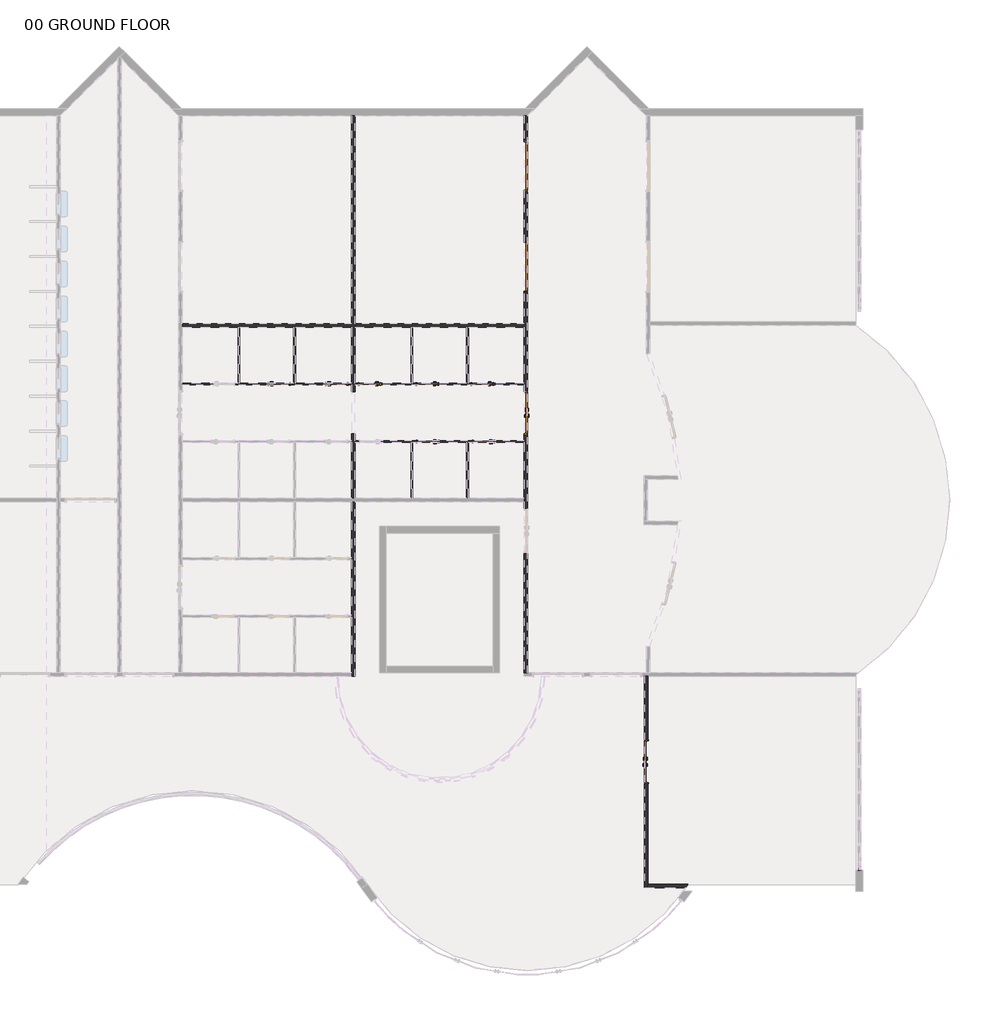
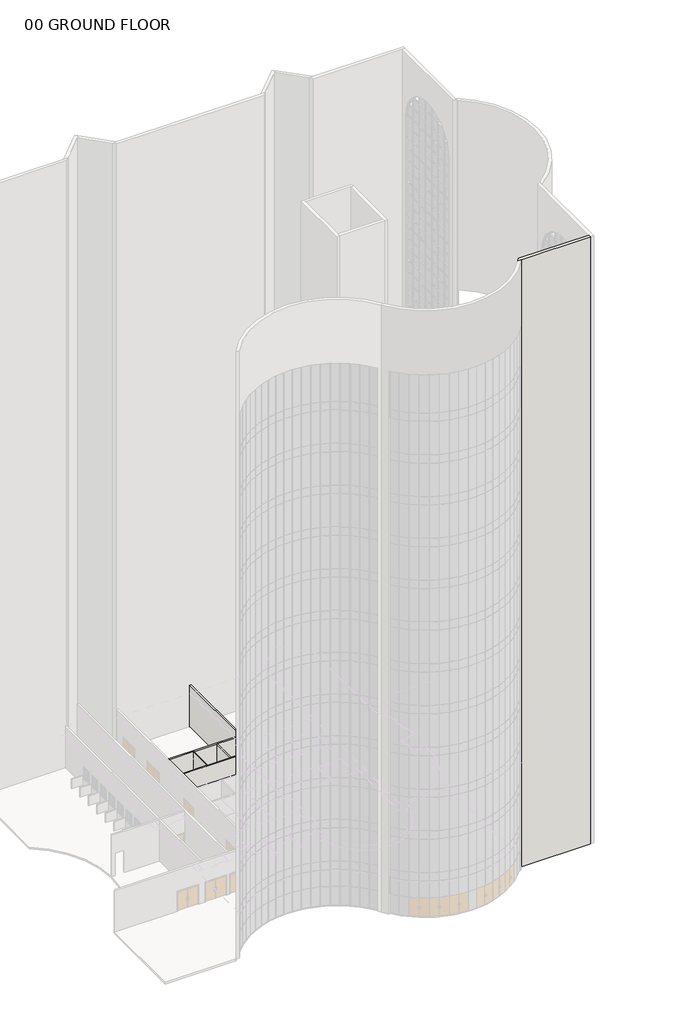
# One storey, part 14 of 33: 51 members, 15 walls, 11 doors, 1 plate.
"""IFC4 building model written with IfcOpenShell, lengths in millimetres."""

from ifc_helpers import new_model, si_unit, point, frame, frame_2d, origin, origin_with_axes, place, context, project, spatial, polyline, circle_curve, trimmed, segment, composite_curve, outline, extrude, faceted_brep, transform, mapped, element, save
from ifc_brep_helpers import plane_surface, revolved_surface, advanced_brep
from components import door_2f250f70, door_df8e76c5, door_0b13e4d9, door_979b1b8c, door_f8b587be, member_c8ecf2e3, member_fd4924df, member_73c23c35, member_75074519, system_panel_glazed_5adabceb

model = new_model("IFC4")

# Units and contexts
model_context = context("Model", 3, world=origin())
ifc_project = project(units=[si_unit("LENGTHUNIT", "METRE", prefix="MILLI")], contexts=[model_context])

# Site, building, storey
site = spatial("IfcSite", under=ifc_project)
building = spatial("IfcBuilding", under=site)
storey = spatial("IfcBuildingStorey", under=building, Name="00 GROUND FLOOR", Elevation=0.0)

# Doors
placement = place(None, origin())
door_shape = door_2f250f70(model_context)
element("IfcDoor", 1, ObjectType="Door-Passage-Double-Flush : 72\" x 82\"", at=placement, inside=storey, context=model_context, shape_type="MappedRepresentation", body=[
    mapped(door_shape, transform((34887.5089577, 5494.3375, 0.0), x_axis=(0.0, 1.0, 0.0), y_axis=(-1.0, 0.0, 0.0), z_axis=(0.0, 0.0, 1.0))),
])
door_2_shape = door_df8e76c5(model_context)
element("IfcDoor", 2, ObjectType="Door-Passage-Double-Flush : 72\" x 82\"", at=placement, inside=storey, context=model_context, shape_type="MappedRepresentation", body=[
    mapped(door_2_shape, transform((29628.0650257, 20729.575, 0.0), x_axis=(0.0, 1.0, 0.0), y_axis=(-1.0, 0.0, 0.0), z_axis=(0.0, 0.0, 1.0))),
])
door_3_shape = door_0b13e4d9(model_context)
element("IfcDoor", 3, ObjectType="Door-Passage-Double-Flush-Dbl_Acting : 84\" x 84\"", at=placement, inside=storey, context=model_context, shape_type="MappedRepresentation", body=[
    mapped(door_3_shape, transform((29628.0650257, 31499.175, 0.0), x_axis=(0.0, 1.0, 0.0), y_axis=(-1.0, 0.0, 0.0), z_axis=(0.0, 0.0, 1.0))),
])
element("IfcDoor", 4, ObjectType="Door-Passage-Double-Flush-Dbl_Acting : 84\" x 84\"", at=placement, inside=storey, context=model_context, shape_type="MappedRepresentation", body=[
    mapped(door_3_shape, transform((29628.0650257, 27101.8, 0.0), x_axis=(0.0, 1.0, 0.0), y_axis=(-1.0, 0.0, 0.0), z_axis=(0.0, 0.0, 1.0))),
])
door_4_shape = door_979b1b8c(model_context)
element("IfcDoor", 5, ObjectType="Door-Passage-Single-Flush : 36\" x 96\"", at=placement, inside=storey, context=model_context, shape_type="MappedRepresentation", body=[
    mapped(door_4_shape, transform((18855.2900257, 21977.35, 0.0), x_axis=(1.0, 0.0, 0.0), y_axis=(0.0, 1.0, 0.0), z_axis=(0.0, 0.0, 1.0))),
])
element("IfcDoor", 6, ObjectType="Door-Passage-Single-Flush : 36\" x 96\"", at=placement, inside=storey, context=model_context, shape_type="MappedRepresentation", body=[
    mapped(door_4_shape, transform((21373.0650257, 21977.35, 0.0), x_axis=(1.0, 0.0, 0.0), y_axis=(0.0, 1.0, 0.0), z_axis=(0.0, 0.0, 1.0))),
])
element("IfcDoor", 7, ObjectType="Door-Passage-Single-Flush : 36\" x 96\"", at=placement, inside=storey, context=model_context, shape_type="MappedRepresentation", body=[
    mapped(door_4_shape, transform((27778.6275257, 19481.8, 0.0), x_axis=(-1.0, 0.0, 0.0), y_axis=(0.0, -1.0, 0.0), z_axis=(0.0, 0.0, 1.0))),
])
element("IfcDoor", 8, ObjectType="Door-Passage-Single-Flush : 36\" x 96\"", at=placement, inside=storey, context=model_context, shape_type="MappedRepresentation", body=[
    mapped(door_4_shape, transform((25348.1650257, 19481.8, 0.0), x_axis=(-1.0, 0.0, 0.0), y_axis=(0.0, -1.0, 0.0), z_axis=(0.0, 0.0, 1.0))),
])
door_5_shape = door_f8b587be(model_context)
element("IfcDoor", 9, ObjectType="Door-Passage-Single-Flush : 36\" x 96\"", at=placement, inside=storey, context=model_context, shape_type="MappedRepresentation", body=[
    mapped(door_5_shape, transform((27727.8275257, 21977.35, 0.0), x_axis=(-1.0, 0.0, 0.0), y_axis=(0.0, -1.0, 0.0), z_axis=(0.0, 0.0, 1.0))),
])
element("IfcDoor", 10, ObjectType="Door-Passage-Single-Flush : 36\" x 96\"", at=placement, inside=storey, context=model_context, shape_type="MappedRepresentation", body=[
    mapped(door_5_shape, transform((25329.1150257, 21977.35, 0.0), x_axis=(-1.0, 0.0, 0.0), y_axis=(0.0, -1.0, 0.0), z_axis=(0.0, 0.0, 1.0))),
])
element("IfcDoor", 11, ObjectType="Door-Passage-Single-Flush : 36\" x 96\"", at=placement, inside=storey, context=model_context, shape_type="MappedRepresentation", body=[
    mapped(door_5_shape, transform((22811.3400257, 21977.35, 0.0), x_axis=(-1.0, 0.0, 0.0), y_axis=(0.0, -1.0, 0.0), z_axis=(0.0, 0.0, 1.0))),
])

# Members
member_shape = member_c8ecf2e3(model_context)
element("IfcMember", 12, ObjectType="Rectangular Mullion : 2.5\" x 5\" rectangular", at=placement, inside=storey, context=model_context, shape_type="MappedRepresentation", body=[
    mapped(member_shape, transform((44184.4050515, 828.675, 0.0), x_axis=(0.0, 0.0, -1.0), y_axis=(1.0, 0.0, 0.0), z_axis=(0.0, -1.0, 0.0))),
])
member_2_shape = member_fd4924df(model_context)
element("IfcMember", 13, ObjectType="Rectangular Mullion : 2.5\" x 5\" rectangular", at=placement, inside=storey, context=model_context, shape_type="MappedRepresentation", body=[
    mapped(member_2_shape, transform((44184.4050515, 776.9154703, 59740.8), x_axis=(0.0, -0.997037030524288, 0.076923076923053), y_axis=(1.0, 0.0, 0.0), z_axis=(0.0, 0.076923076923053, 0.997037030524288))),
])
member_3_shape = member_73c23c35(model_context)
element("IfcMember", 14, ObjectType="Rectangular Mullion : 2.5\" x 5\" rectangular", at=placement, inside=storey, context=model_context, shape_type="MappedRepresentation", body=[
    mapped(member_3_shape, transform((44184.4050515, 765.175, 59436.0), x_axis=(0.0, -1.0, 0.0), y_axis=(1.0, 0.0, 0.0), z_axis=(0.0, 0.0, 1.0))),
])
member_4_shape = member_75074519(model_context)
element("IfcMember", 15, ObjectType="Rectangular Mullion : 2.5\" x 5\" rectangular", at=placement, inside=storey, context=model_context, shape_type="MappedRepresentation", body=[
    mapped(member_4_shape, transform((44184.4050515, 765.175, 1219.2), x_axis=(0.0, -1.0, 0.0), y_axis=(1.0, 0.0, 0.0), z_axis=(0.0, 0.0, 1.0))),
])
element("IfcMember", 16, ObjectType="Rectangular Mullion : 2.5\" x 5\" rectangular", at=placement, inside=storey, context=model_context, shape_type="MappedRepresentation", body=[
    mapped(member_4_shape, transform((44184.4050515, 765.175, 2438.4), x_axis=(0.0, -1.0, 0.0), y_axis=(1.0, 0.0, 0.0), z_axis=(0.0, 0.0, 1.0))),
])
element("IfcMember", 17, ObjectType="Rectangular Mullion : 2.5\" x 5\" rectangular", at=placement, inside=storey, context=model_context, shape_type="MappedRepresentation", body=[
    mapped(member_4_shape, transform((44184.4050515, 765.175, 3657.6), x_axis=(0.0, -1.0, 0.0), y_axis=(1.0, 0.0, 0.0), z_axis=(0.0, 0.0, 1.0))),
])
element("IfcMember", 18, ObjectType="Rectangular Mullion : 2.5\" x 5\" rectangular", at=placement, inside=storey, context=model_context, shape_type="MappedRepresentation", body=[
    mapped(member_4_shape, transform((44184.4050515, 765.175, 4876.8), x_axis=(0.0, -1.0, 0.0), y_axis=(1.0, 0.0, 0.0), z_axis=(0.0, 0.0, 1.0))),
])
element("IfcMember", 19, ObjectType="Rectangular Mullion : 2.5\" x 5\" rectangular", at=placement, inside=storey, context=model_context, shape_type="MappedRepresentation", body=[
    mapped(member_4_shape, transform((44184.4050515, 765.175, 6096.0), x_axis=(0.0, -1.0, 0.0), y_axis=(1.0, 0.0, 0.0), z_axis=(0.0, 0.0, 1.0))),
])
element("IfcMember", 20, ObjectType="Rectangular Mullion : 2.5\" x 5\" rectangular", at=placement, inside=storey, context=model_context, shape_type="MappedRepresentation", body=[
    mapped(member_4_shape, transform((44184.4050515, 765.175, 7315.2), x_axis=(0.0, -1.0, 0.0), y_axis=(1.0, 0.0, 0.0), z_axis=(0.0, 0.0, 1.0))),
])
element("IfcMember", 21, ObjectType="Rectangular Mullion : 2.5\" x 5\" rectangular", at=placement, inside=storey, context=model_context, shape_type="MappedRepresentation", body=[
    mapped(member_4_shape, transform((44184.4050515, 765.175, 8534.4), x_axis=(0.0, -1.0, 0.0), y_axis=(1.0, 0.0, 0.0), z_axis=(0.0, 0.0, 1.0))),
])
element("IfcMember", 22, ObjectType="Rectangular Mullion : 2.5\" x 5\" rectangular", at=placement, inside=storey, context=model_context, shape_type="MappedRepresentation", body=[
    mapped(member_4_shape, transform((44184.4050515, 765.175, 9753.6), x_axis=(0.0, -1.0, 0.0), y_axis=(1.0, 0.0, 0.0), z_axis=(0.0, 0.0, 1.0))),
])
element("IfcMember", 23, ObjectType="Rectangular Mullion : 2.5\" x 5\" rectangular", at=placement, inside=storey, context=model_context, shape_type="MappedRepresentation", body=[
    mapped(member_4_shape, transform((44184.4050515, 765.175, 10972.8), x_axis=(0.0, -1.0, 0.0), y_axis=(1.0, 0.0, 0.0), z_axis=(0.0, 0.0, 1.0))),
])
element("IfcMember", 24, ObjectType="Rectangular Mullion : 2.5\" x 5\" rectangular", at=placement, inside=storey, context=model_context, shape_type="MappedRepresentation", body=[
    mapped(member_4_shape, transform((44184.4050515, 765.175, 12192.0), x_axis=(0.0, -1.0, 0.0), y_axis=(1.0, 0.0, 0.0), z_axis=(0.0, 0.0, 1.0))),
])
element("IfcMember", 25, ObjectType="Rectangular Mullion : 2.5\" x 5\" rectangular", at=placement, inside=storey, context=model_context, shape_type="MappedRepresentation", body=[
    mapped(member_4_shape, transform((44184.4050515, 765.175, 13411.2), x_axis=(0.0, -1.0, 0.0), y_axis=(1.0, 0.0, 0.0), z_axis=(0.0, 0.0, 1.0))),
])
element("IfcMember", 26, ObjectType="Rectangular Mullion : 2.5\" x 5\" rectangular", at=placement, inside=storey, context=model_context, shape_type="MappedRepresentation", body=[
    mapped(member_4_shape, transform((44184.4050515, 765.175, 14630.4), x_axis=(0.0, -1.0, 0.0), y_axis=(1.0, 0.0, 0.0), z_axis=(0.0, 0.0, 1.0))),
])
element("IfcMember", 27, ObjectType="Rectangular Mullion : 2.5\" x 5\" rectangular", at=placement, inside=storey, context=model_context, shape_type="MappedRepresentation", body=[
    mapped(member_4_shape, transform((44184.4050515, 765.175, 15849.6), x_axis=(0.0, -1.0, 0.0), y_axis=(1.0, 0.0, 0.0), z_axis=(0.0, 0.0, 1.0))),
])
element("IfcMember", 28, ObjectType="Rectangular Mullion : 2.5\" x 5\" rectangular", at=placement, inside=storey, context=model_context, shape_type="MappedRepresentation", body=[
    mapped(member_4_shape, transform((44184.4050515, 765.175, 17068.8), x_axis=(0.0, -1.0, 0.0), y_axis=(1.0, 0.0, 0.0), z_axis=(0.0, 0.0, 1.0))),
])
element("IfcMember", 29, ObjectType="Rectangular Mullion : 2.5\" x 5\" rectangular", at=placement, inside=storey, context=model_context, shape_type="MappedRepresentation", body=[
    mapped(member_4_shape, transform((44184.4050515, 765.175, 18288.0), x_axis=(0.0, -1.0, 0.0), y_axis=(1.0, 0.0, 0.0), z_axis=(0.0, 0.0, 1.0))),
])
element("IfcMember", 30, ObjectType="Rectangular Mullion : 2.5\" x 5\" rectangular", at=placement, inside=storey, context=model_context, shape_type="MappedRepresentation", body=[
    mapped(member_4_shape, transform((44184.4050515, 765.175, 19507.2), x_axis=(0.0, -1.0, 0.0), y_axis=(1.0, 0.0, 0.0), z_axis=(0.0, 0.0, 1.0))),
])
element("IfcMember", 31, ObjectType="Rectangular Mullion : 2.5\" x 5\" rectangular", at=placement, inside=storey, context=model_context, shape_type="MappedRepresentation", body=[
    mapped(member_4_shape, transform((44184.4050515, 765.175, 20726.4), x_axis=(0.0, -1.0, 0.0), y_axis=(1.0, 0.0, 0.0), z_axis=(0.0, 0.0, 1.0))),
])
element("IfcMember", 32, ObjectType="Rectangular Mullion : 2.5\" x 5\" rectangular", at=placement, inside=storey, context=model_context, shape_type="MappedRepresentation", body=[
    mapped(member_4_shape, transform((44184.4050515, 765.175, 21945.6), x_axis=(0.0, -1.0, 0.0), y_axis=(1.0, 0.0, 0.0), z_axis=(0.0, 0.0, 1.0))),
])
element("IfcMember", 33, ObjectType="Rectangular Mullion : 2.5\" x 5\" rectangular", at=placement, inside=storey, context=model_context, shape_type="MappedRepresentation", body=[
    mapped(member_4_shape, transform((44184.4050515, 765.175, 23164.8), x_axis=(0.0, -1.0, 0.0), y_axis=(1.0, 0.0, 0.0), z_axis=(0.0, 0.0, 1.0))),
])
element("IfcMember", 34, ObjectType="Rectangular Mullion : 2.5\" x 5\" rectangular", at=placement, inside=storey, context=model_context, shape_type="MappedRepresentation", body=[
    mapped(member_4_shape, transform((44184.4050515, 765.175, 24384.0), x_axis=(0.0, -1.0, 0.0), y_axis=(1.0, 0.0, 0.0), z_axis=(0.0, 0.0, 1.0))),
])
element("IfcMember", 35, ObjectType="Rectangular Mullion : 2.5\" x 5\" rectangular", at=placement, inside=storey, context=model_context, shape_type="MappedRepresentation", body=[
    mapped(member_4_shape, transform((44184.4050515, 765.175, 25603.2), x_axis=(0.0, -1.0, 0.0), y_axis=(1.0, 0.0, 0.0), z_axis=(0.0, 0.0, 1.0))),
])
element("IfcMember", 36, ObjectType="Rectangular Mullion : 2.5\" x 5\" rectangular", at=placement, inside=storey, context=model_context, shape_type="MappedRepresentation", body=[
    mapped(member_4_shape, transform((44184.4050515, 765.175, 26822.4), x_axis=(0.0, -1.0, 0.0), y_axis=(1.0, 0.0, 0.0), z_axis=(0.0, 0.0, 1.0))),
])
element("IfcMember", 37, ObjectType="Rectangular Mullion : 2.5\" x 5\" rectangular", at=placement, inside=storey, context=model_context, shape_type="MappedRepresentation", body=[
    mapped(member_4_shape, transform((44184.4050515, 765.175, 28041.6), x_axis=(0.0, -1.0, 0.0), y_axis=(1.0, 0.0, 0.0), z_axis=(0.0, 0.0, 1.0))),
])
element("IfcMember", 38, ObjectType="Rectangular Mullion : 2.5\" x 5\" rectangular", at=placement, inside=storey, context=model_context, shape_type="MappedRepresentation", body=[
    mapped(member_4_shape, transform((44184.4050515, 765.175, 29260.8), x_axis=(0.0, -1.0, 0.0), y_axis=(1.0, 0.0, 0.0), z_axis=(0.0, 0.0, 1.0))),
])
element("IfcMember", 39, ObjectType="Rectangular Mullion : 2.5\" x 5\" rectangular", at=placement, inside=storey, context=model_context, shape_type="MappedRepresentation", body=[
    mapped(member_4_shape, transform((44184.4050515, 765.175, 30480.0), x_axis=(0.0, -1.0, 0.0), y_axis=(1.0, 0.0, 0.0), z_axis=(0.0, 0.0, 1.0))),
])
element("IfcMember", 40, ObjectType="Rectangular Mullion : 2.5\" x 5\" rectangular", at=placement, inside=storey, context=model_context, shape_type="MappedRepresentation", body=[
    mapped(member_4_shape, transform((44184.4050515, 765.175, 31699.2), x_axis=(0.0, -1.0, 0.0), y_axis=(1.0, 0.0, 0.0), z_axis=(0.0, 0.0, 1.0))),
])
element("IfcMember", 41, ObjectType="Rectangular Mullion : 2.5\" x 5\" rectangular", at=placement, inside=storey, context=model_context, shape_type="MappedRepresentation", body=[
    mapped(member_4_shape, transform((44184.4050515, 765.175, 32918.4), x_axis=(0.0, -1.0, 0.0), y_axis=(1.0, 0.0, 0.0), z_axis=(0.0, 0.0, 1.0))),
])
element("IfcMember", 42, ObjectType="Rectangular Mullion : 2.5\" x 5\" rectangular", at=placement, inside=storey, context=model_context, shape_type="MappedRepresentation", body=[
    mapped(member_4_shape, transform((44184.4050515, 765.175, 34137.6), x_axis=(0.0, -1.0, 0.0), y_axis=(1.0, 0.0, 0.0), z_axis=(0.0, 0.0, 1.0))),
])
element("IfcMember", 43, ObjectType="Rectangular Mullion : 2.5\" x 5\" rectangular", at=placement, inside=storey, context=model_context, shape_type="MappedRepresentation", body=[
    mapped(member_4_shape, transform((44184.4050515, 765.175, 35356.8), x_axis=(0.0, -1.0, 0.0), y_axis=(1.0, 0.0, 0.0), z_axis=(0.0, 0.0, 1.0))),
])
element("IfcMember", 44, ObjectType="Rectangular Mullion : 2.5\" x 5\" rectangular", at=placement, inside=storey, context=model_context, shape_type="MappedRepresentation", body=[
    mapped(member_4_shape, transform((44184.4050515, 765.175, 36576.0), x_axis=(0.0, -1.0, 0.0), y_axis=(1.0, 0.0, 0.0), z_axis=(0.0, 0.0, 1.0))),
])
element("IfcMember", 45, ObjectType="Rectangular Mullion : 2.5\" x 5\" rectangular", at=placement, inside=storey, context=model_context, shape_type="MappedRepresentation", body=[
    mapped(member_4_shape, transform((44184.4050515, 765.175, 37795.2), x_axis=(0.0, -1.0, 0.0), y_axis=(1.0, 0.0, 0.0), z_axis=(0.0, 0.0, 1.0))),
])
element("IfcMember", 46, ObjectType="Rectangular Mullion : 2.5\" x 5\" rectangular", at=placement, inside=storey, context=model_context, shape_type="MappedRepresentation", body=[
    mapped(member_4_shape, transform((44184.4050515, 765.175, 39014.4), x_axis=(0.0, -1.0, 0.0), y_axis=(1.0, 0.0, 0.0), z_axis=(0.0, 0.0, 1.0))),
])
element("IfcMember", 47, ObjectType="Rectangular Mullion : 2.5\" x 5\" rectangular", at=placement, inside=storey, context=model_context, shape_type="MappedRepresentation", body=[
    mapped(member_4_shape, transform((44184.4050515, 765.175, 40233.6), x_axis=(0.0, -1.0, 0.0), y_axis=(1.0, 0.0, 0.0), z_axis=(0.0, 0.0, 1.0))),
])
element("IfcMember", 48, ObjectType="Rectangular Mullion : 2.5\" x 5\" rectangular", at=placement, inside=storey, context=model_context, shape_type="MappedRepresentation", body=[
    mapped(member_4_shape, transform((44184.4050515, 765.175, 41452.8), x_axis=(0.0, -1.0, 0.0), y_axis=(1.0, 0.0, 0.0), z_axis=(0.0, 0.0, 1.0))),
])
element("IfcMember", 49, ObjectType="Rectangular Mullion : 2.5\" x 5\" rectangular", at=placement, inside=storey, context=model_context, shape_type="MappedRepresentation", body=[
    mapped(member_4_shape, transform((44184.4050515, 765.175, 42672.0), x_axis=(0.0, -1.0, 0.0), y_axis=(1.0, 0.0, 0.0), z_axis=(0.0, 0.0, 1.0))),
])
element("IfcMember", 50, ObjectType="Rectangular Mullion : 2.5\" x 5\" rectangular", at=placement, inside=storey, context=model_context, shape_type="MappedRepresentation", body=[
    mapped(member_4_shape, transform((44184.4050515, 765.175, 43891.2), x_axis=(0.0, -1.0, 0.0), y_axis=(1.0, 0.0, 0.0), z_axis=(0.0, 0.0, 1.0))),
])
element("IfcMember", 51, ObjectType="Rectangular Mullion : 2.5\" x 5\" rectangular", at=placement, inside=storey, context=model_context, shape_type="MappedRepresentation", body=[
    mapped(member_4_shape, transform((44184.4050515, 765.175, 45110.4), x_axis=(0.0, -1.0, 0.0), y_axis=(1.0, 0.0, 0.0), z_axis=(0.0, 0.0, 1.0))),
])
element("IfcMember", 52, ObjectType="Rectangular Mullion : 2.5\" x 5\" rectangular", at=placement, inside=storey, context=model_context, shape_type="MappedRepresentation", body=[
    mapped(member_4_shape, transform((44184.4050515, 765.175, 46329.6), x_axis=(0.0, -1.0, 0.0), y_axis=(1.0, 0.0, 0.0), z_axis=(0.0, 0.0, 1.0))),
])
element("IfcMember", 53, ObjectType="Rectangular Mullion : 2.5\" x 5\" rectangular", at=placement, inside=storey, context=model_context, shape_type="MappedRepresentation", body=[
    mapped(member_4_shape, transform((44184.4050515, 765.175, 47548.8), x_axis=(0.0, -1.0, 0.0), y_axis=(1.0, 0.0, 0.0), z_axis=(0.0, 0.0, 1.0))),
])
element("IfcMember", 54, ObjectType="Rectangular Mullion : 2.5\" x 5\" rectangular", at=placement, inside=storey, context=model_context, shape_type="MappedRepresentation", body=[
    mapped(member_4_shape, transform((44184.4050515, 765.175, 48768.0), x_axis=(0.0, -1.0, 0.0), y_axis=(1.0, 0.0, 0.0), z_axis=(0.0, 0.0, 1.0))),
])
element("IfcMember", 55, ObjectType="Rectangular Mullion : 2.5\" x 5\" rectangular", at=placement, inside=storey, context=model_context, shape_type="MappedRepresentation", body=[
    mapped(member_4_shape, transform((44184.4050515, 765.175, 49987.2), x_axis=(0.0, -1.0, 0.0), y_axis=(1.0, 0.0, 0.0), z_axis=(0.0, 0.0, 1.0))),
])
element("IfcMember", 56, ObjectType="Rectangular Mullion : 2.5\" x 5\" rectangular", at=placement, inside=storey, context=model_context, shape_type="MappedRepresentation", body=[
    mapped(member_4_shape, transform((44184.4050515, 765.175, 51206.4), x_axis=(0.0, -1.0, 0.0), y_axis=(1.0, 0.0, 0.0), z_axis=(0.0, 0.0, 1.0))),
])
element("IfcMember", 57, ObjectType="Rectangular Mullion : 2.5\" x 5\" rectangular", at=placement, inside=storey, context=model_context, shape_type="MappedRepresentation", body=[
    mapped(member_4_shape, transform((44184.4050515, 765.175, 52425.6), x_axis=(0.0, -1.0, 0.0), y_axis=(1.0, 0.0, 0.0), z_axis=(0.0, 0.0, 1.0))),
])
element("IfcMember", 58, ObjectType="Rectangular Mullion : 2.5\" x 5\" rectangular", at=placement, inside=storey, context=model_context, shape_type="MappedRepresentation", body=[
    mapped(member_4_shape, transform((44184.4050515, 765.175, 53644.8), x_axis=(0.0, -1.0, 0.0), y_axis=(1.0, 0.0, 0.0), z_axis=(0.0, 0.0, 1.0))),
])
element("IfcMember", 59, ObjectType="Rectangular Mullion : 2.5\" x 5\" rectangular", at=placement, inside=storey, context=model_context, shape_type="MappedRepresentation", body=[
    mapped(member_4_shape, transform((44184.4050515, 765.175, 54864.0), x_axis=(0.0, -1.0, 0.0), y_axis=(1.0, 0.0, 0.0), z_axis=(0.0, 0.0, 1.0))),
])
element("IfcMember", 60, ObjectType="Rectangular Mullion : 2.5\" x 5\" rectangular", at=placement, inside=storey, context=model_context, shape_type="MappedRepresentation", body=[
    mapped(member_4_shape, transform((44184.4050515, 765.175, 56083.2), x_axis=(0.0, -1.0, 0.0), y_axis=(1.0, 0.0, 0.0), z_axis=(0.0, 0.0, 1.0))),
])
element("IfcMember", 61, ObjectType="Rectangular Mullion : 2.5\" x 5\" rectangular", at=placement, inside=storey, context=model_context, shape_type="MappedRepresentation", body=[
    mapped(member_4_shape, transform((44184.4050515, 765.175, 57302.4), x_axis=(0.0, -1.0, 0.0), y_axis=(1.0, 0.0, 0.0), z_axis=(0.0, 0.0, 1.0))),
])
element("IfcMember", 62, ObjectType="Rectangular Mullion : 2.5\" x 5\" rectangular", at=placement, inside=storey, context=model_context, shape_type="MappedRepresentation", body=[
    mapped(member_4_shape, transform((44184.4050515, 765.175, 58521.6), x_axis=(0.0, -1.0, 0.0), y_axis=(1.0, 0.0, 0.0), z_axis=(0.0, 0.0, 1.0))),
])

# Plate
system_panel_glazed_shape = system_panel_glazed_5adabceb(model_context)
element("IfcPlate", 63, ObjectType="System Panel : Glazed", at=placement, inside=storey, context=model_context, shape_type="MappedRepresentation", body=[
    mapped(system_panel_glazed_shape, transform((44184.4050515, 1347.107143, 63.5), x_axis=(0.0, 1.0, 0.0), y_axis=(-1.0, 0.0, 0.0), z_axis=(0.0, 0.0, 1.0))),
])

# Walls
element("IfcWall", 64, ObjectType="Exterior - MAIN EIFS WITH LGMF", at=placement, inside=storey, context=model_context, shape_type="AdvancedBrep", body=[
    advanced_brep(
    [(44028.8300515, 155.575, 0.0), (36713.6300515, 155.575, 0.0), (36713.6300515, 155.575, 4572.0), (36713.6300515, 155.575, 9144.0), (36713.6300515, 155.575, 13716.0), (36713.6300515, 155.575, 18288.0), (36713.6300515, 155.575, 22860.0), (36713.6300515, 155.575, 27432.0), (36713.6300515, 155.575, 32004.0), (36713.6300515, 155.575, 36576.0), (36713.6300515, 155.575, 41148.0), (36713.6300515, 155.575, 45720.0), (36713.6300515, 155.575, 50292.0), (36713.6300515, 155.575, 54864.0), (36713.6300515, 155.575, 59436.0), (36713.6300515, 155.575, 64008.0), (36713.6300515, 155.575, 66446.4), (44028.8300515, 155.575, 66446.4), (44028.8300515, -155.575, 0.0), (44028.8300515, -155.575, 66446.4), (36878.6712728, -155.575, 66446.4), (36496.9703155, -155.575, 66446.4), (36496.9703155, -155.575, 0.0), (36878.6712728, -155.575, 0.0), (36607.9064974, -0.0001037, 0.0)],
    [
        (0, 1),
        (1, 2),
        (2, 3),
        (3, 4),
        (4, 5),
        (5, 6),
        (6, 7),
        (7, 8),
        (8, 9),
        (9, 10),
        (10, 11),
        (11, 12),
        (12, 13),
        (13, 14),
        (14, 15),
        (15, 16),
        (16, 17),
        (17, 0),
        (18, 19),
        (19, 20),
        (20, 21),
        (21, 22),
        (22, 23),
        (23, 18),
        (0, 18),
        (22, 24, circle_curve(frame((29712.2025257, 4799.7966199, 0.0), z_axis=(0.0, 0.0, 1.0), x_axis=(1.0, 0.0, 0.0)), 8401.7130309)),
        (24, 1, circle_curve(frame((29712.2025257, 4799.7966199, 0.0), z_axis=(0.0, 0.0, 1.0), x_axis=(1.0, 0.0, 0.0)), 8401.7130309)),
        (16, 21, circle_curve(frame((29712.2025257, 4799.7966199, 66446.4), z_axis=(0.0, 0.0, -1.0), x_axis=(1.0, 0.0, 0.0)), 8401.7130309)),
        (19, 17),
    ],
    [
        plane_surface(frame((44028.8300515, 155.575, 0.0), z_axis=(0.0, 1.0, 0.0), x_axis=(-1.0, 0.0, 0.0))),
        plane_surface(frame((44028.8300515, -155.575, 0.0), z_axis=(0.0, -1.0, 0.0), x_axis=(1.0, 0.0, 0.0))),
        plane_surface(frame((44184.4050515, 155.575, 0.0), z_axis=(0.0, 0.0, -1.0), x_axis=(0.0, -1.0, 0.0))),
        plane_surface(frame((36796.6312854, 155.575, 66446.4), z_axis=(0.0, 0.0, 1.0), x_axis=(0.0, -1.0, 0.0))),
        revolved_surface(polyline([(38113.9155566, 4799.7966199, 0.0), (38113.9155566, 4799.7966199, 66446.4)]), (29712.2025257, 4799.7966199, 0.0), (0.0, 0.0, -1.0)),
        plane_surface(frame((44028.8300515, 9299.575, 0.0), z_axis=(1.0, 0.0, 0.0), x_axis=(0.0, -1.0, 0.0))),
    ],
    [
        (0, [[1, 2, 3, 4, 5, 6, 7, 8, 9, 10, 11, 12, 13, 14, 15, 16, 17, 18]]),
        (1, [[19, 20, 21, 22, 23, 24]]),
        (2, [[-1, 25, -24, -23, 26, 27]]),
        (3, [[-17, 28, -21, -20, 29]]),
        (4, [[-27, -26, -22, -28, -16, -15, -14, -13, -12, -11, -10, -9, -8, -7, -6, -5, -4, -3, -2]]),
        (5, [[-18, -29, -19, -25]]),
    ],
),
])
element("IfcWall", 65, ObjectType="SYR_INT_ONE_HOUR", at=placement, inside=storey, context=model_context, shape_type="SweptSolid", body=[
    extrude(outline(polyline([(17066.1775257, 22023.3875), (17066.1775257, 24461.7875), (17145.5525257, 24461.7875), (17145.5525257, 22023.3875), (17066.1775257, 22023.3875)])), origin_with_axes(), (0.0, 0.0, 1.0), 4572.0),
])
element("IfcWall", 66, ObjectType="SYR_INT_ONE_HOUR", at=placement, inside=storey, context=model_context, shape_type="Brep", body=[
    faceted_brep([(14627.7775257, 22023.3875, 4572.0), (17066.1775257, 22023.3875, 4572.0), (17145.5525257, 22023.3875, 4572.0), (19496.6400257, 22023.3875, 4572.0), (19576.0150257, 22023.3875, 4572.0), (22014.4150257, 22023.3875, 4572.0), (22014.4150257, 22023.3875, 0.0), (21862.0150257, 22023.3875, 0.0), (21862.0150257, 22023.3875, 2470.15), (20884.1150257, 22023.3875, 2470.15), (20884.1150257, 22023.3875, 0.0), (19576.0150257, 22023.3875, 0.0), (19496.6400257, 22023.3875, 0.0), (19344.2400257, 22023.3875, 0.0), (19344.2400257, 22023.3875, 2470.15), (18366.3400257, 22023.3875, 2470.15), (18366.3400257, 22023.3875, 0.0), (17145.5525257, 22023.3875, 0.0), (17066.1775257, 22023.3875, 0.0), (16945.5275257, 22023.3875, 0.0), (16945.5275257, 22023.3875, 2470.15), (15967.6275257, 22023.3875, 2470.15), (15967.6275257, 22023.3875, 0.0), (14627.7775257, 22023.3875, 0.0), (22014.4150257, 21944.0125, 4572.0), (14627.7775257, 21944.0125, 4572.0), (14627.7775257, 21944.0125, 0.0), (15967.6275257, 21944.0125, 0.0), (15967.6275257, 21944.0125, 2470.15), (16945.5275257, 21944.0125, 2470.15), (16945.5275257, 21944.0125, 0.0), (18366.3400257, 21944.0125, 0.0), (18366.3400257, 21944.0125, 2470.15), (19344.2400257, 21944.0125, 2470.15), (19344.2400257, 21944.0125, 0.0), (20884.1150257, 21944.0125, 0.0), (20884.1150257, 21944.0125, 2470.15), (21862.0150257, 21944.0125, 2470.15), (21862.0150257, 21944.0125, 0.0), (22014.4150257, 21944.0125, 0.0)], [[[0, 1, 2, 3, 4, 5, 6, 7, 8, 9, 10, 11, 12, 13, 14, 15, 16, 17, 18, 19, 20, 21, 22, 23]], [[24, 25, 26, 27, 28, 29, 30, 31, 32, 33, 34, 35, 36, 37, 38, 39]], [[23, 22, 27, 26]], [[30, 19, 18, 17, 16, 31]], [[34, 13, 12, 11, 10, 35]], [[6, 39, 38, 7]], [[5, 4, 3, 2, 1, 0, 25, 24]], [[29, 20, 19, 30]], [[20, 29, 28, 21]], [[21, 28, 27, 22]], [[14, 13, 34, 33]], [[15, 14, 33, 32]], [[16, 15, 32, 31]], [[37, 8, 7, 38]], [[8, 37, 36, 9]], [[9, 36, 35, 10]], [[0, 23, 26, 25]], [[6, 5, 24, 39]]]),
])
element("IfcWall", 67, ObjectType="SYR_INT_ONE_HOUR", at=placement, inside=storey, context=model_context, shape_type="SweptSolid", body=[
    extrude(outline(polyline([(19576.0150257, 24461.7875), (19576.0150257, 22023.3875), (19496.6400257, 22023.3875), (19496.6400257, 24461.7875), (19576.0150257, 24461.7875)])), origin_with_axes(), (0.0, 0.0, 1.0), 4572.0),
])
element("IfcWall", 68, ObjectType="SYR_INT_ONE_HOUR", at=placement, inside=storey, context=model_context, shape_type="SweptSolid", body=[
    extrude(outline(polyline([(27038.8525257, 22023.3875), (27038.8525257, 24461.7875), (27118.2275257, 24461.7875), (27118.2275257, 22023.3875), (27038.8525257, 22023.3875)])), origin_with_axes(), (0.0, 0.0, 1.0), 4572.0),
])
element("IfcWall", 69, ObjectType="SYR_INT_ONE_HOUR", at=placement, inside=storey, context=model_context, shape_type="SweptSolid", body=[
    extrude(outline(polyline([(24687.7650257, 19435.7625), (24687.7650257, 16997.3625), (24608.3900257, 16997.3625), (24608.3900257, 19435.7625), (24687.7650257, 19435.7625)])), origin_with_axes(), (0.0, 0.0, 1.0), 4572.0),
])
element("IfcWall", 70, ObjectType="SYR_INT_ONE_HOUR", at=placement, inside=storey, context=model_context, shape_type="Brep", body=[
    faceted_brep([(29556.6275257, 21944.0125, 4572.0), (22169.9900257, 21944.0125, 4572.0), (22169.9900257, 21944.0125, 0.0), (22322.3900257, 21944.0125, 0.0), (22322.3900257, 21944.0125, 2470.15), (23300.2900257, 21944.0125, 2470.15), (23300.2900257, 21944.0125, 0.0), (24840.1650257, 21944.0125, 0.0), (24840.1650257, 21944.0125, 2470.15), (25818.0650257, 21944.0125, 2470.15), (25818.0650257, 21944.0125, 0.0), (27238.8775257, 21944.0125, 0.0), (27238.8775257, 21944.0125, 2470.15), (28216.7775257, 21944.0125, 2470.15), (28216.7775257, 21944.0125, 0.0), (29556.6275257, 21944.0125, 0.0), (22169.9900257, 22023.3875, 4572.0), (24608.3900257, 22023.3875, 4572.0), (24687.7650257, 22023.3875, 4572.0), (27038.8525257, 22023.3875, 4572.0), (27118.2275257, 22023.3875, 4572.0), (29556.6275257, 22023.3875, 4572.0), (29556.6275257, 22023.3875, 0.0), (28216.7775257, 22023.3875, 0.0), (28216.7775257, 22023.3875, 2470.15), (27238.8775257, 22023.3875, 2470.15), (27238.8775257, 22023.3875, 0.0), (27118.2275257, 22023.3875, 0.0), (27038.8525257, 22023.3875, 0.0), (25818.0650257, 22023.3875, 0.0), (25818.0650257, 22023.3875, 2470.15), (24840.1650257, 22023.3875, 2470.15), (24840.1650257, 22023.3875, 0.0), (24687.7650257, 22023.3875, 0.0), (24608.3900257, 22023.3875, 0.0), (23300.2900257, 22023.3875, 0.0), (23300.2900257, 22023.3875, 2470.15), (22322.3900257, 22023.3875, 2470.15), (22322.3900257, 22023.3875, 0.0), (22169.9900257, 22023.3875, 0.0)], [[[0, 1, 2, 3, 4, 5, 6, 7, 8, 9, 10, 11, 12, 13, 14, 15]], [[16, 17, 18, 19, 20, 21, 22, 23, 24, 25, 26, 27, 28, 29, 30, 31, 32, 33, 34, 35, 36, 37, 38, 39]], [[15, 14, 23, 22]], [[26, 11, 10, 29, 28, 27]], [[32, 7, 6, 35, 34, 33]], [[2, 39, 38, 3]], [[1, 0, 21, 20, 19, 18, 17, 16]], [[25, 12, 11, 26]], [[12, 25, 24, 13]], [[13, 24, 23, 14]], [[8, 7, 32, 31]], [[9, 8, 31, 30]], [[10, 9, 30, 29]], [[37, 4, 3, 38]], [[4, 37, 36, 5]], [[5, 36, 35, 6]], [[0, 15, 22, 21]], [[2, 1, 16, 39]]]),
])
element("IfcWall", 71, ObjectType="SYR_INT_ONE_HOUR", at=placement, inside=storey, context=model_context, shape_type="Brep", body=[
    faceted_brep([(29556.6275257, 19435.7625, 4572.0), (27118.2275257, 19435.7625, 4572.0), (27038.8525257, 19435.7625, 4572.0), (24687.7650257, 19435.7625, 4572.0), (24608.3900257, 19435.7625, 4572.0), (22169.9900257, 19435.7625, 4572.0), (22169.9900257, 19435.7625, 0.0), (22341.4400257, 19435.7625, 0.0), (22341.4400257, 19435.7625, 2470.15), (23319.3400257, 19435.7625, 2470.15), (23319.3400257, 19435.7625, 0.0), (24608.3900257, 19435.7625, 0.0), (24687.7650257, 19435.7625, 0.0), (24859.2150257, 19435.7625, 0.0), (24859.2150257, 19435.7625, 2470.15), (25837.1150257, 19435.7625, 2470.15), (25837.1150257, 19435.7625, 0.0), (27038.8525257, 19435.7625, 0.0), (27118.2275257, 19435.7625, 0.0), (27289.6775257, 19435.7625, 0.0), (27289.6775257, 19435.7625, 2470.15), (28267.5775257, 19435.7625, 2470.15), (28267.5775257, 19435.7625, 0.0), (29556.6275257, 19435.7625, 0.0), (22169.9900257, 19515.1375, 4572.0), (29556.6275257, 19515.1375, 4572.0), (29556.6275257, 19515.1375, 0.0), (28267.5775257, 19515.1375, 0.0), (28267.5775257, 19515.1375, 2470.15), (27289.6775257, 19515.1375, 2470.15), (27289.6775257, 19515.1375, 0.0), (25837.1150257, 19515.1375, 0.0), (25837.1150257, 19515.1375, 2470.15), (24859.2150257, 19515.1375, 2470.15), (24859.2150257, 19515.1375, 0.0), (23319.3400257, 19515.1375, 0.0), (23319.3400257, 19515.1375, 2470.15), (22341.4400257, 19515.1375, 2470.15), (22341.4400257, 19515.1375, 0.0), (22169.9900257, 19515.1375, 0.0)], [[[0, 1, 2, 3, 4, 5, 6, 7, 8, 9, 10, 11, 12, 13, 14, 15, 16, 17, 18, 19, 20, 21, 22, 23]], [[24, 25, 26, 27, 28, 29, 30, 31, 32, 33, 34, 35, 36, 37, 38, 39]], [[23, 22, 27, 26]], [[30, 19, 18, 17, 16, 31]], [[34, 13, 12, 11, 10, 35]], [[6, 39, 38, 7]], [[5, 4, 3, 2, 1, 0, 25, 24]], [[29, 20, 19, 30]], [[20, 29, 28, 21]], [[21, 28, 27, 22]], [[33, 14, 13, 34]], [[14, 33, 32, 15]], [[15, 32, 31, 16]], [[37, 8, 7, 38]], [[8, 37, 36, 9]], [[9, 36, 35, 10]], [[0, 23, 26, 25]], [[6, 5, 24, 39]]]),
])
element("IfcWall", 72, ObjectType="SYR_INT_ONE_HOUR", at=placement, inside=storey, context=model_context, shape_type="SweptSolid", body=[
    extrude(outline(polyline([(27038.8525257, 16997.3625), (27038.8525257, 19435.7625), (27118.2275257, 19435.7625), (27118.2275257, 16997.3625), (27038.8525257, 16997.3625)])), origin_with_axes(), (0.0, 0.0, 1.0), 4572.0),
])
element("IfcWall", 73, ObjectType="SYR_INT_ONE_HOUR", at=placement, inside=storey, context=model_context, shape_type="SweptSolid", body=[
    extrude(outline(polyline([(24687.7650257, 24461.7875), (24687.7650257, 22023.3875), (24608.3900257, 22023.3875), (24608.3900257, 24461.7875), (24687.7650257, 24461.7875)])), origin_with_axes(), (0.0, 0.0, 1.0), 4572.0),
])
element("IfcWall", 74, ObjectType="SYR_INT_TWO_HOUR", at=placement, inside=storey, context=model_context, shape_type="Brep", body=[
    faceted_brep([(34803.3714577, 0.0, 4572.0), (34803.3714577, 9221.7875, 4572.0), (34803.3714577, 9221.7875, 0.0), (34803.3714577, 6459.5375, 0.0), (34803.3714577, 6459.5375, 2184.4), (34803.3714577, 4529.1375, 2184.4), (34803.3714577, 4529.1375, 0.0), (34803.3714577, 0.0, 0.0), (34958.9464577, 9221.7875, 4572.0), (34958.9464577, 155.575, 4572.0), (34958.9464577, 0.0, 4572.0), (34958.9464577, 0.0, 0.0), (34958.9464577, 155.575, 0.0), (34958.9464577, 4529.1375, 0.0), (34958.9464577, 4529.1375, 2184.4), (34958.9464577, 6459.5375, 2184.4), (34958.9464577, 6459.5375, 0.0), (34958.9464577, 9221.7875, 0.0)], [[[0, 1, 2, 3, 4, 5, 6, 7]], [[8, 9, 10, 11, 12, 13, 14, 15, 16, 17]], [[2, 17, 16, 3]], [[11, 7, 6, 13, 12]], [[1, 0, 10, 9, 8]], [[2, 1, 8, 17]], [[0, 7, 11, 10]], [[15, 4, 3, 16]], [[4, 15, 14, 5]], [[5, 14, 13, 6]]]),
])
element("IfcWall", 75, ObjectType="SYR_INT_TWO_HOUR", at=placement, inside=storey, context=model_context, shape_type="SweptSolid", body=[
    extrude(outline(composite_curve([segment(polyline([(36607.9065696, 0.0), (34958.9464577, 0.0), (34958.9464577, 155.575), (36713.6300515, 155.575)]), True, "CONTINUOUS"), segment(trimmed(circle_curve(frame_2d((29712.2025257, 4799.7966199)), 8401.7130309), [point((36713.6300515, 155.575))], [point((36607.9065696, 0.0))], False, "CARTESIAN"), True, "CONTINUOUS")], self_intersect=False)), origin_with_axes(), (0.0, 0.0, 1.0), 4572.0),
])
element("IfcWall", 76, ObjectType="SYR_INT_TWO_HOUR", at=placement, inside=storey, context=model_context, shape_type="Brep", body=[
    faceted_brep([(29556.6275257, 9377.3625, 4572.0), (29556.6275257, 16841.7875, 4572.0), (29556.6275257, 16997.3625, 4572.0), (29556.6275257, 19435.7625, 4572.0), (29556.6275257, 19515.1375, 4572.0), (29556.6275257, 21944.0125, 4572.0), (29556.6275257, 22023.3875, 4572.0), (29556.6275257, 24461.7875, 4572.0), (29556.6275257, 24617.3625, 4572.0), (29556.6275257, 33683.575, 4572.0), (29556.6275257, 33683.575, 0.0), (29556.6275257, 32616.775, 0.0), (29556.6275257, 32616.775, 2235.2), (29556.6275257, 30381.575, 2235.2), (29556.6275257, 30381.575, 0.0), (29556.6275257, 28219.4, 0.0), (29556.6275257, 28219.4, 2235.2), (29556.6275257, 25984.2, 2235.2), (29556.6275257, 25984.2, 0.0), (29556.6275257, 24617.3625, 0.0), (29556.6275257, 24461.7875, 0.0), (29556.6275257, 22023.3875, 0.0), (29556.6275257, 21944.0125, 0.0), (29556.6275257, 21694.775, 0.0), (29556.6275257, 21694.775, 2184.4), (29556.6275257, 19764.375, 2184.4), (29556.6275257, 19764.375, 0.0), (29556.6275257, 19515.1375, 0.0), (29556.6275257, 19435.7625, 0.0), (29556.6275257, 16997.3625, 0.0), (29556.6275257, 16841.7875, 0.0), (29556.6275257, 16536.9875, 0.0), (29556.6275257, 16536.9875, 2184.4), (29556.6275257, 14606.5875, 2184.4), (29556.6275257, 14606.5875, 0.0), (29556.6275257, 9377.3625, 0.0), (29712.2025257, 33683.575, 4572.0), (29712.2025257, 9377.3625, 4572.0), (29712.2025257, 9377.3625, 0.0), (29712.2025257, 14606.5875, 0.0), (29712.2025257, 14606.5875, 2184.4), (29712.2025257, 16536.9875, 2184.4), (29712.2025257, 16536.9875, 0.0), (29712.2025257, 19764.375, 0.0), (29712.2025257, 19764.375, 2184.4), (29712.2025257, 21694.775, 2184.4), (29712.2025257, 21694.775, 0.0), (29712.2025257, 25984.2, 0.0), (29712.2025257, 25984.2, 2235.2), (29712.2025257, 28219.4, 2235.2), (29712.2025257, 28219.4, 0.0), (29712.2025257, 30381.575, 0.0), (29712.2025257, 30381.575, 2235.2), (29712.2025257, 32616.775, 2235.2), (29712.2025257, 32616.775, 0.0), (29712.2025257, 33683.575, 0.0)], [[[0, 1, 2, 3, 4, 5, 6, 7, 8, 9, 10, 11, 12, 13, 14, 15, 16, 17, 18, 19, 20, 21, 22, 23, 24, 25, 26, 27, 28, 29, 30, 31, 32, 33, 34, 35]], [[36, 37, 38, 39, 40, 41, 42, 43, 44, 45, 46, 47, 48, 49, 50, 51, 52, 53, 54, 55]], [[38, 35, 34, 39]], [[46, 23, 22, 21, 20, 19, 18, 47]], [[26, 43, 42, 31, 30, 29, 28, 27]], [[50, 15, 14, 51]], [[11, 10, 55, 54]], [[9, 8, 7, 6, 5, 4, 3, 2, 1, 0, 37, 36]], [[0, 35, 38, 37]], [[45, 24, 23, 46]], [[24, 45, 44, 25]], [[25, 44, 43, 26]], [[49, 16, 15, 50]], [[16, 49, 48, 17]], [[17, 48, 47, 18]], [[53, 12, 11, 54]], [[12, 53, 52, 13]], [[13, 52, 51, 14]], [[33, 40, 39, 34]], [[40, 33, 32, 41]], [[41, 32, 31, 42]], [[10, 9, 36, 55]]]),
])
element("IfcWall", 77, ObjectType="SYR_INT_TWO_HOUR", at=placement, inside=storey, context=model_context, shape_type="Brep", body=[
    faceted_brep([(22169.9900257, 19815.175, 0.0), (22169.9900257, 19815.175, 2133.6), (22169.9900257, 21643.975, 2133.6), (22169.9900257, 21643.975, 0.0), (22169.9900257, 21944.0125, 0.0), (22169.9900257, 22023.3875, 0.0), (22169.9900257, 24461.7875, 0.0), (22169.9900257, 24617.3625, 0.0), (22169.9900257, 33683.575, 0.0), (22169.9900257, 33683.575, 4572.0), (22169.9900257, 24617.3625, 4572.0), (22169.9900257, 24461.7875, 4572.0), (22169.9900257, 22023.3875, 4572.0), (22169.9900257, 21944.0125, 4572.0), (22169.9900257, 19515.1375, 4572.0), (22169.9900257, 19435.7625, 4572.0), (22169.9900257, 16997.3625, 4572.0), (22169.9900257, 16997.3625, 0.0), (22169.9900257, 19435.7625, 0.0), (22169.9900257, 19515.1375, 0.0), (22014.4150257, 19815.175, 2133.6), (22014.4150257, 19815.175, 0.0), (22014.4150257, 19515.1375, 0.0), (22014.4150257, 19435.7625, 0.0), (22014.4150257, 16997.3625, 0.0), (22014.4150257, 16997.3625, 4572.0), (22014.4150257, 19435.7625, 4572.0), (22014.4150257, 19515.1375, 4572.0), (22014.4150257, 21944.0125, 4572.0), (22014.4150257, 22023.3875, 4572.0), (22014.4150257, 24461.7875, 4572.0), (22014.4150257, 24617.3625, 4572.0), (22014.4150257, 33683.575, 4572.0), (22014.4150257, 33683.575, 0.0), (22014.4150257, 24617.3625, 0.0), (22014.4150257, 24461.7875, 0.0), (22014.4150257, 22023.3875, 0.0), (22014.4150257, 21944.0125, 0.0), (22014.4150257, 21643.975, 0.0), (22014.4150257, 21643.975, 2133.6)], [[[0, 1, 2, 3, 4, 5, 6, 7, 8, 9, 10, 11, 12, 13, 14, 15, 16, 17, 18, 19]], [[20, 21, 22, 23, 24, 25, 26, 27, 28, 29, 30, 31, 32, 33, 34, 35, 36, 37, 38, 39]], [[21, 0, 19, 18, 17, 24, 23, 22]], [[3, 38, 37, 36, 35, 34, 33, 8, 7, 6, 5, 4]], [[9, 32, 31, 30, 29, 28, 27, 26, 25, 16, 15, 14, 13, 12, 11, 10]], [[17, 16, 25, 24]], [[21, 20, 1, 0]], [[39, 38, 3, 2]], [[20, 39, 2, 1]], [[9, 8, 33, 32]]]),
    faceted_brep([(22169.9900257, 9221.7875, 4572.0), (22169.9900257, 9221.7875, 0.0), (22169.9900257, 16841.7875, 0.0), (22169.9900257, 16841.7875, 4572.0), (22014.4150257, 9221.7875, 0.0), (22014.4150257, 9221.7875, 4572.0), (22014.4150257, 9377.3625, 4572.0), (22014.4150257, 11815.7625, 4572.0), (22014.4150257, 11895.1375, 4572.0), (22014.4150257, 14324.0125, 4572.0), (22014.4150257, 14403.3875, 4572.0), (22014.4150257, 16841.7875, 4572.0), (22014.4150257, 16841.7875, 0.0), (22014.4150257, 14403.3875, 0.0), (22014.4150257, 14324.0125, 0.0), (22014.4150257, 11895.1375, 0.0), (22014.4150257, 11815.7625, 0.0), (22014.4150257, 9377.3625, 0.0)], [[[0, 1, 2, 3]], [[4, 5, 6, 7, 8, 9, 10, 11, 12, 13, 14, 15, 16, 17]], [[1, 4, 17, 16, 15, 14, 13, 12, 2]], [[5, 0, 3, 11, 10, 9, 8, 7, 6]], [[3, 2, 12, 11]], [[1, 0, 5, 4]]]),
])
element("IfcWall", 78, ObjectType="SYR_INT_TWO_HOUR", at=placement, inside=storey, context=model_context, shape_type="Brep", body=[
    faceted_brep([(14627.7775257, 24461.7875, 4572.0), (14627.7775257, 24461.7875, 0.0), (17066.1775257, 24461.7875, 0.0), (17145.5525257, 24461.7875, 0.0), (19496.6400257, 24461.7875, 0.0), (19576.0150257, 24461.7875, 0.0), (22014.4150257, 24461.7875, 0.0), (22014.4150257, 24461.7875, 4572.0), (19576.0150257, 24461.7875, 4572.0), (19496.6400257, 24461.7875, 4572.0), (17145.5525257, 24461.7875, 4572.0), (17066.1775257, 24461.7875, 4572.0), (14627.7775257, 24617.3625, 0.0), (14627.7775257, 24617.3625, 4572.0), (22014.4150257, 24617.3625, 4572.0), (22014.4150257, 24617.3625, 0.0)], [[[0, 1, 2, 3, 4, 5, 6, 7, 8, 9, 10, 11]], [[12, 13, 14, 15]], [[1, 12, 15, 6, 5, 4, 3, 2]], [[13, 0, 11, 10, 9, 8, 7, 14]], [[1, 0, 13, 12]], [[7, 6, 15, 14]]]),
    faceted_brep([(29556.6275257, 24461.7875, 0.0), (29556.6275257, 24461.7875, 4572.0), (27118.2275257, 24461.7875, 4572.0), (27038.8525257, 24461.7875, 4572.0), (24687.7650257, 24461.7875, 4572.0), (24608.3900257, 24461.7875, 4572.0), (22169.9900257, 24461.7875, 4572.0), (22169.9900257, 24461.7875, 0.0), (24608.3900257, 24461.7875, 0.0), (24687.7650257, 24461.7875, 0.0), (27038.8525257, 24461.7875, 0.0), (27118.2275257, 24461.7875, 0.0), (29556.6275257, 24617.3625, 4572.0), (29556.6275257, 24617.3625, 0.0), (22169.9900257, 24617.3625, 0.0), (22169.9900257, 24617.3625, 4572.0)], [[[0, 1, 2, 3, 4, 5, 6, 7, 8, 9, 10, 11]], [[12, 13, 14, 15]], [[13, 0, 11, 10, 9, 8, 7, 14]], [[1, 12, 15, 6, 5, 4, 3, 2]], [[1, 0, 13, 12]], [[7, 6, 15, 14]]]),
])

save(model, "model.ifc")
